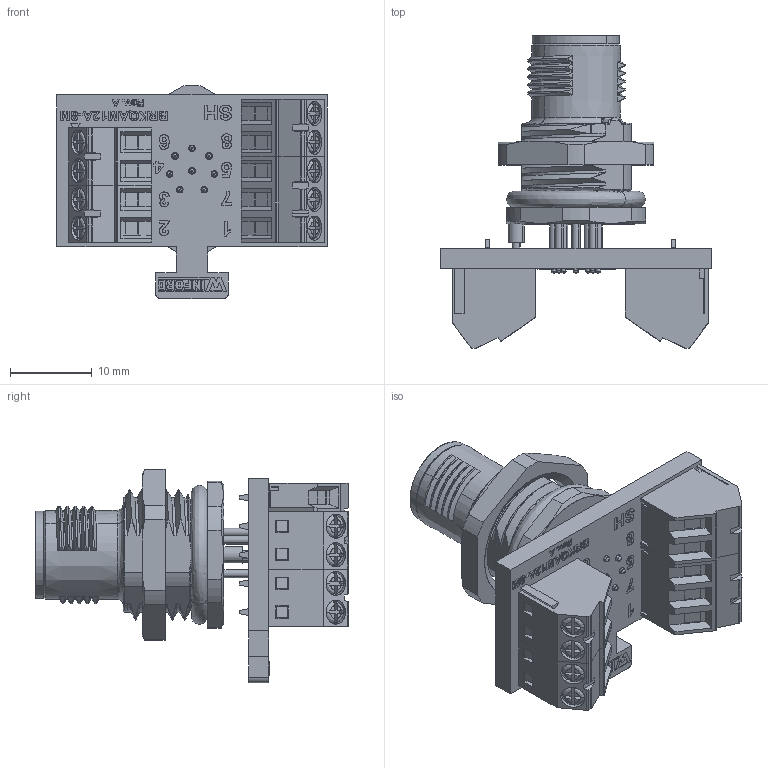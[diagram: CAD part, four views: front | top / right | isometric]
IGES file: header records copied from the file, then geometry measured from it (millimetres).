
Start section: SolidWorks IGES file using analytic representation for surfaces
Global section: file name: W:\end-user\products\brk\brkq\brkqam12a-8m\3dmodel\rev_a\render\brkqam12a-8m-a_rev_a.igs; native system: SolidWorks 2018; preprocessor: SolidWorks 2018; author: leviroy; date: 210426.101841; units: inch
Bounding box: 33.02 x 38.19 x 26.07 mm (x, y, z)
Surface area: 7492.8 mm2 (no closed solid volume)
Topology: 0 solids, 0 shells, 3151 faces, 24006 edges, 23999 vertices
Faces by surface type: bspline 2811, revolution 340
